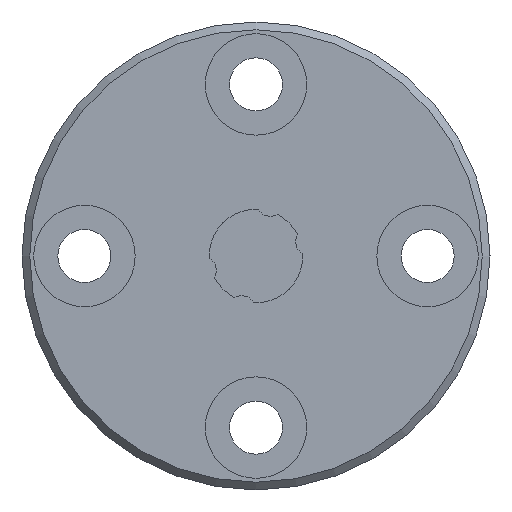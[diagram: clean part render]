
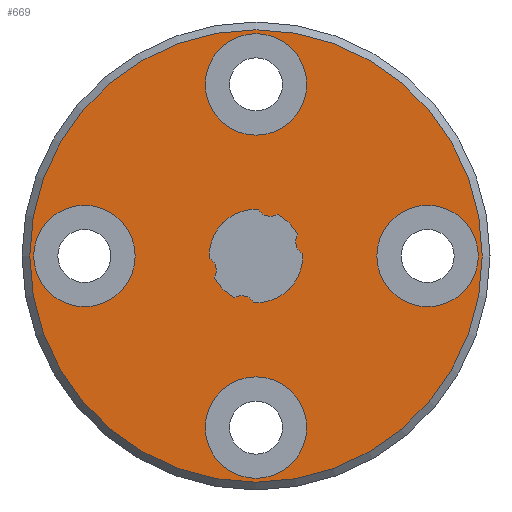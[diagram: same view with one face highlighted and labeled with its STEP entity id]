
A CAD part, left-side view. The second image highlights one B-rep face of the part: STEP entity #669.
In plain terms, the highlighted planar face has unit normal (-1, 0, 0).
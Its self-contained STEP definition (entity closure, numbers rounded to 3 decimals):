
#44=PLANE('',#757);
#135=ORIENTED_EDGE('',*,*,#279,.F.);
#136=ORIENTED_EDGE('',*,*,#280,.F.);
#137=ORIENTED_EDGE('',*,*,#281,.F.);
#138=ORIENTED_EDGE('',*,*,#282,.F.);
#139=ORIENTED_EDGE('',*,*,#283,.F.);
#140=ORIENTED_EDGE('',*,*,#284,.T.);
#141=ORIENTED_EDGE('',*,*,#285,.F.);
#142=ORIENTED_EDGE('',*,*,#286,.T.);
#143=ORIENTED_EDGE('',*,*,#287,.F.);
#144=ORIENTED_EDGE('',*,*,#288,.T.);
#145=ORIENTED_EDGE('',*,*,#289,.F.);
#146=ORIENTED_EDGE('',*,*,#290,.T.);
#147=ORIENTED_EDGE('',*,*,#291,.F.);
#279=EDGE_CURVE('',#355,#355,#421,.T.);
#280=EDGE_CURVE('',#356,#356,#422,.F.);
#281=EDGE_CURVE('',#357,#357,#423,.F.);
#282=EDGE_CURVE('',#358,#358,#424,.F.);
#283=EDGE_CURVE('',#359,#359,#425,.F.);
#284=EDGE_CURVE('',#360,#361,#426,.T.);
#285=EDGE_CURVE('',#362,#361,#427,.T.);
#286=EDGE_CURVE('',#362,#363,#428,.T.);
#287=EDGE_CURVE('',#364,#363,#429,.T.);
#288=EDGE_CURVE('',#364,#365,#430,.T.);
#289=EDGE_CURVE('',#366,#365,#431,.T.);
#290=EDGE_CURVE('',#366,#367,#432,.T.);
#291=EDGE_CURVE('',#360,#367,#433,.T.);
#355=VERTEX_POINT('',#1125);
#356=VERTEX_POINT('',#1127);
#357=VERTEX_POINT('',#1129);
#358=VERTEX_POINT('',#1131);
#359=VERTEX_POINT('',#1133);
#360=VERTEX_POINT('',#1135);
#361=VERTEX_POINT('',#1136);
#362=VERTEX_POINT('',#1138);
#363=VERTEX_POINT('',#1140);
#364=VERTEX_POINT('',#1142);
#365=VERTEX_POINT('',#1144);
#366=VERTEX_POINT('',#1146);
#367=VERTEX_POINT('',#1148);
#421=CIRCLE('',#758,14.5);
#422=CIRCLE('',#759,3.25);
#423=CIRCLE('',#760,3.25);
#424=CIRCLE('',#761,3.25);
#425=CIRCLE('',#762,3.25);
#426=CIRCLE('',#763,3.);
#427=CIRCLE('',#764,0.83);
#428=CIRCLE('',#765,3.);
#429=CIRCLE('',#766,0.83);
#430=CIRCLE('',#767,3.);
#431=CIRCLE('',#768,0.83);
#432=CIRCLE('',#769,3.);
#433=CIRCLE('',#770,0.83);
#475=EDGE_LOOP('',(#135));
#476=EDGE_LOOP('',(#136));
#477=EDGE_LOOP('',(#137));
#478=EDGE_LOOP('',(#138));
#479=EDGE_LOOP('',(#139));
#480=EDGE_LOOP('',(#140,#141,#142,#143,#144,#145,#146,#147));
#557=FACE_BOUND('',#475,.T.);
#558=FACE_BOUND('',#476,.T.);
#559=FACE_BOUND('',#477,.T.);
#560=FACE_BOUND('',#478,.T.);
#561=FACE_BOUND('',#479,.T.);
#562=FACE_BOUND('',#480,.T.);
#669=ADVANCED_FACE('',(#557,#558,#559,#560,#561,#562),#44,.F.);
#757=AXIS2_PLACEMENT_3D('',#1123,#901,#902);
#758=AXIS2_PLACEMENT_3D('',#1124,#903,#904);
#759=AXIS2_PLACEMENT_3D('',#1126,#905,#906);
#760=AXIS2_PLACEMENT_3D('',#1128,#907,#908);
#761=AXIS2_PLACEMENT_3D('',#1130,#909,#910);
#762=AXIS2_PLACEMENT_3D('',#1132,#911,#912);
#763=AXIS2_PLACEMENT_3D('',#1134,#913,#914);
#764=AXIS2_PLACEMENT_3D('',#1137,#915,#916);
#765=AXIS2_PLACEMENT_3D('',#1139,#917,#918);
#766=AXIS2_PLACEMENT_3D('',#1141,#919,#920);
#767=AXIS2_PLACEMENT_3D('',#1143,#921,#922);
#768=AXIS2_PLACEMENT_3D('',#1145,#923,#924);
#769=AXIS2_PLACEMENT_3D('',#1147,#925,#926);
#770=AXIS2_PLACEMENT_3D('',#1149,#927,#928);
#901=DIRECTION('',(1.,0.,0.));
#902=DIRECTION('',(0.,0.,-1.));
#903=DIRECTION('',(1.,0.,0.));
#904=DIRECTION('',(0.,0.,-1.));
#905=DIRECTION('',(1.,0.,0.));
#906=DIRECTION('',(0.,0.,-1.));
#907=DIRECTION('',(1.,0.,0.));
#908=DIRECTION('',(0.,0.,-1.));
#909=DIRECTION('',(1.,0.,0.));
#910=DIRECTION('',(0.,0.,-1.));
#911=DIRECTION('',(1.,0.,0.));
#912=DIRECTION('',(0.,0.,-1.));
#913=DIRECTION('',(1.,0.,0.));
#914=DIRECTION('',(0.,0.,-1.));
#915=DIRECTION('',(1.,0.,0.));
#916=DIRECTION('',(0.,0.,-1.));
#917=DIRECTION('',(1.,0.,0.));
#918=DIRECTION('',(0.,0.,-1.));
#919=DIRECTION('',(1.,0.,0.));
#920=DIRECTION('',(0.,0.,-1.));
#921=DIRECTION('',(1.,0.,0.));
#922=DIRECTION('',(0.,0.,-1.));
#923=DIRECTION('',(1.,0.,0.));
#924=DIRECTION('',(0.,0.,-1.));
#925=DIRECTION('',(1.,0.,0.));
#926=DIRECTION('',(0.,0.,-1.));
#927=DIRECTION('',(1.,0.,0.));
#928=DIRECTION('',(0.,0.,-1.));
#1123=CARTESIAN_POINT('',(0.,0.,0.));
#1124=CARTESIAN_POINT('',(0.,0.,0.));
#1125=CARTESIAN_POINT('',(0.,0.,-14.5));
#1126=CARTESIAN_POINT('',(0.,11.,0.));
#1127=CARTESIAN_POINT('',(0.,11.,-3.25));
#1128=CARTESIAN_POINT('',(0.,0.,-11.));
#1129=CARTESIAN_POINT('',(0.,0.,-14.25));
#1130=CARTESIAN_POINT('',(0.,0.,11.));
#1131=CARTESIAN_POINT('',(0.,0.,7.75));
#1132=CARTESIAN_POINT('',(0.,-11.,0.));
#1133=CARTESIAN_POINT('',(0.,-11.,-3.25));
#1134=CARTESIAN_POINT('',(0.,0.,0.));
#1135=CARTESIAN_POINT('',(0.,1.35,-2.679));
#1136=CARTESIAN_POINT('',(0.,2.679,-1.35));
#1137=CARTESIAN_POINT('',(0.,3.381,-0.906));
#1138=CARTESIAN_POINT('',(0.,2.995,-0.171));
#1139=CARTESIAN_POINT('',(0.,0.,0.));
#1140=CARTESIAN_POINT('',(0.,-0.171,2.995));
#1141=CARTESIAN_POINT('',(0.,-0.906,3.381));
#1142=CARTESIAN_POINT('',(0.,-1.35,2.679));
#1143=CARTESIAN_POINT('',(0.,0.,0.));
#1144=CARTESIAN_POINT('',(0.,-2.679,1.35));
#1145=CARTESIAN_POINT('',(0.,-3.381,0.906));
#1146=CARTESIAN_POINT('',(0.,-2.995,0.171));
#1147=CARTESIAN_POINT('',(0.,0.,0.));
#1148=CARTESIAN_POINT('',(0.,0.171,-2.995));
#1149=CARTESIAN_POINT('',(0.,0.906,-3.381));
